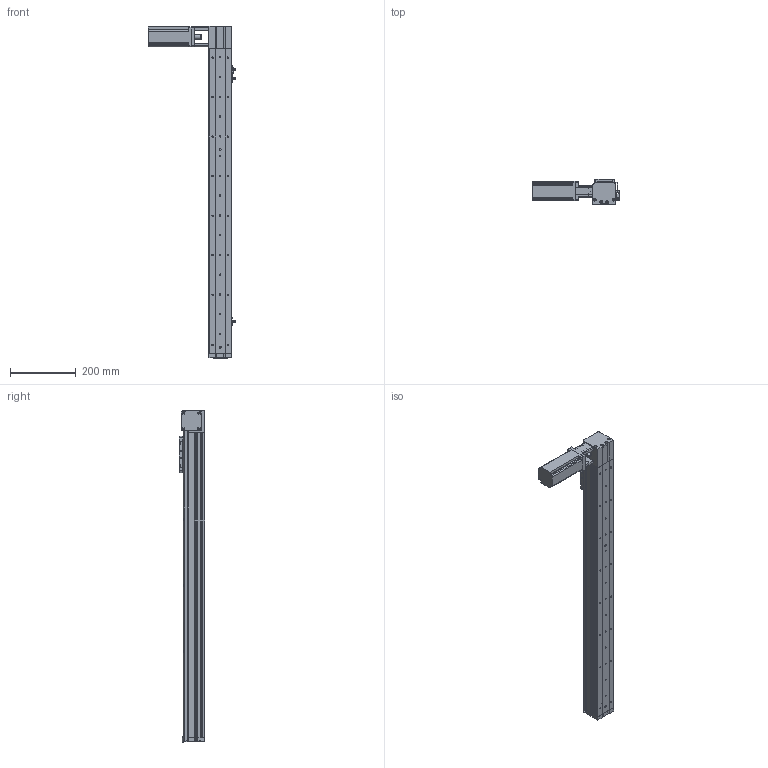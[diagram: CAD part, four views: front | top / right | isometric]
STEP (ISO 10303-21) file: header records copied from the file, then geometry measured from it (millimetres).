
FILE_DESCRIPTION (( 'STEP AP214' ), '1' );
FILE_NAME ('KSD68BS-S750-MLT-CR.STEP', '2019-11-08T05:20:04', ( '微软用户' ), ( '微软中国' ), 'SwSTEP 2.0', 'SolidWorks 2014', '' );
FILE_SCHEMA (( 'AUTOMOTIVE_DESIGN' ));
Length unit declared in the file: millimetre
Products named in the file (13): KSD68BS 750行程侧板全封闭; 68宽单导轨全封闭同步带端板; 68单导轨全封闭同步带电机座右; 68单导轨全封闭同步带安装板; 感应片68宽全封闭; U倰嫖萇EEㄜSX672; 台达ECMA－C20604AS伺服电机（400W); KSD68BS 750行程底板全封闭; KSD68BS-S750-MLT-CR; 100遵鎮湛假蚾啣1; 68遵裔啣揤啣1; KSD68BS 750行程盖板全封闭; 68宽单导轨全封闭丝杆传动安装板1防护罩
Assembly tree (15 placements, depth 2):
  KSD68BS-S750-MLT-CR
    KSD68BS 750行程底板全封闭
    台达ECMA－C20604AS伺服电机（400W)
    U倰嫖萇EEㄜSX672  x3
    感应片68宽全封闭
    68单导轨全封闭同步带安装板
    68单导轨全封闭同步带电机座右
    68宽单导轨全封闭同步带端板
    KSD68BS 750行程侧板全封闭  x2
    68宽单导轨全封闭丝杆传动安装板1防护罩
    KSD68BS 750行程盖板全封闭
    68遵裔啣揤啣1
    100遵鎮湛假蚾啣1
Bounding box: 266.4 x 77 x 1008.1 mm (x, y, z)
Volume: 2147269.4 mm3; surface area: 773091.3 mm2
Topology: 16 solids, 16 shells, 1383 faces, 3933 edges, 2517 vertices
Faces by surface type: cylinder 642, plane 593, cone 148
Entity records: 44009 total; most frequent: CARTESIAN_POINT 7434, DIRECTION 6560, ORIENTED_EDGE 6280, EDGE_CURVE 3140, AXIS2_PLACEMENT_3D 2357, VERTEX_POINT 2059, LINE 1846, VECTOR 1846
